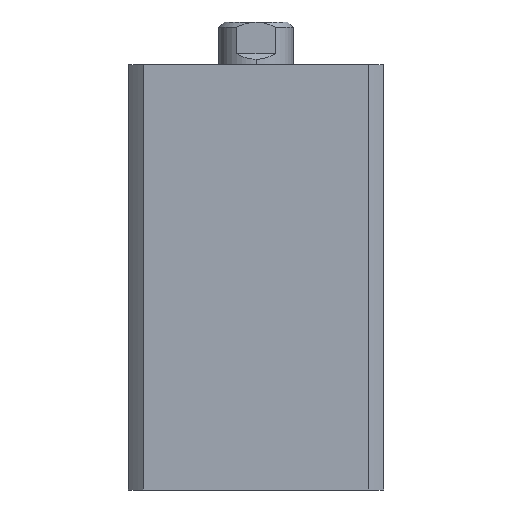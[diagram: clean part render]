
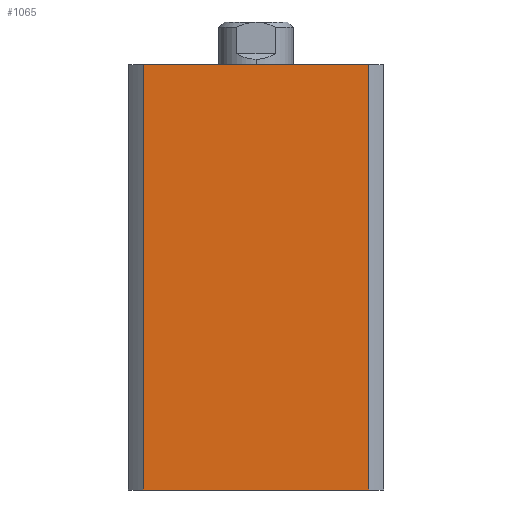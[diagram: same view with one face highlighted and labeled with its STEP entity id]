
A CAD part, left-side view. The second image highlights one B-rep face of the part: STEP entity #1065.
In plain terms, the highlighted planar face has unit normal (-1, 0, 0).
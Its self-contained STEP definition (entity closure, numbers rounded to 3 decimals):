
#287 = FACE_OUTER_BOUND ( 'NONE', #1368, .T. ) ;
#354 = LINE ( 'NONE', #4570, #358 ) ;
#358 = VECTOR ( 'NONE', #4552, 1000. ) ;
#1065 = ADVANCED_FACE ( 'NONE', ( #287 ), #2661, .F. ) ;
#1214 = VERTEX_POINT ( 'NONE', #2685 ) ;
#1368 = EDGE_LOOP ( 'NONE', ( #4828, #4851, #4880, #4924 ) ) ;
#1464 = VERTEX_POINT ( 'NONE', #2784 ) ;
#1467 = VERTEX_POINT ( 'NONE', #2787 ) ;
#1598 = VERTEX_POINT ( 'NONE', #2807 ) ;
#1669 = LINE ( 'NONE', #4024, #1676 ) ;
#1670 = LINE ( 'NONE', #4019, #1671 ) ;
#1671 = VECTOR ( 'NONE', #4020, 1000. ) ;
#1673 = LINE ( 'NONE', #4025, #1674 ) ;
#1674 = VECTOR ( 'NONE', #4030, 1000. ) ;
#1676 = VECTOR ( 'NONE', #4032, 1000. ) ;
#2146 = EDGE_CURVE ( 'NONE', #1598, #1214, #354, .T. ) ;
#2659 = CARTESIAN_POINT ( 'NONE',  ( -24., 0., 80. ) ) ;
#2661 = PLANE ( 'NONE',  #3042 ) ;
#2664 = DIRECTION ( 'NONE',  ( 1., 0., 0. ) ) ;
#2665 = DIRECTION ( 'NONE',  ( 0., 0., -1. ) ) ;
#2685 = CARTESIAN_POINT ( 'NONE',  ( -24., -21.166, 80. ) ) ;
#2784 = CARTESIAN_POINT ( 'NONE',  ( -24., -21.166, 0. ) ) ;
#2787 = CARTESIAN_POINT ( 'NONE',  ( -24., 21.166, 0. ) ) ;
#2807 = CARTESIAN_POINT ( 'NONE',  ( -24., 21.166, 80. ) ) ;
#3042 = AXIS2_PLACEMENT_3D ( 'NONE', #2659, #2664, #2665 ) ;
#4019 = CARTESIAN_POINT ( 'NONE',  ( -24., 0., 0. ) ) ;
#4020 = DIRECTION ( 'NONE',  ( 0., -1., 0. ) ) ;
#4024 = CARTESIAN_POINT ( 'NONE',  ( -24., 21.166, 80. ) ) ;
#4025 = CARTESIAN_POINT ( 'NONE',  ( -24., -21.166, 80. ) ) ;
#4030 = DIRECTION ( 'NONE',  ( 0., 0., -1. ) ) ;
#4032 = DIRECTION ( 'NONE',  ( 0., 0., -1. ) ) ;
#4087 = EDGE_CURVE ( 'NONE', #1467, #1464, #1670, .T. ) ;
#4088 = EDGE_CURVE ( 'NONE', #1214, #1464, #1673, .T. ) ;
#4089 = EDGE_CURVE ( 'NONE', #1598, #1467, #1669, .T. ) ;
#4552 = DIRECTION ( 'NONE',  ( 0., -1., 0. ) ) ;
#4570 = CARTESIAN_POINT ( 'NONE',  ( -24., 0., 80. ) ) ;
#4828 = ORIENTED_EDGE ( 'NONE', *, *, #4087, .T. ) ;
#4851 = ORIENTED_EDGE ( 'NONE', *, *, #4088, .F. ) ;
#4880 = ORIENTED_EDGE ( 'NONE', *, *, #2146, .F. ) ;
#4924 = ORIENTED_EDGE ( 'NONE', *, *, #4089, .T. ) ;
